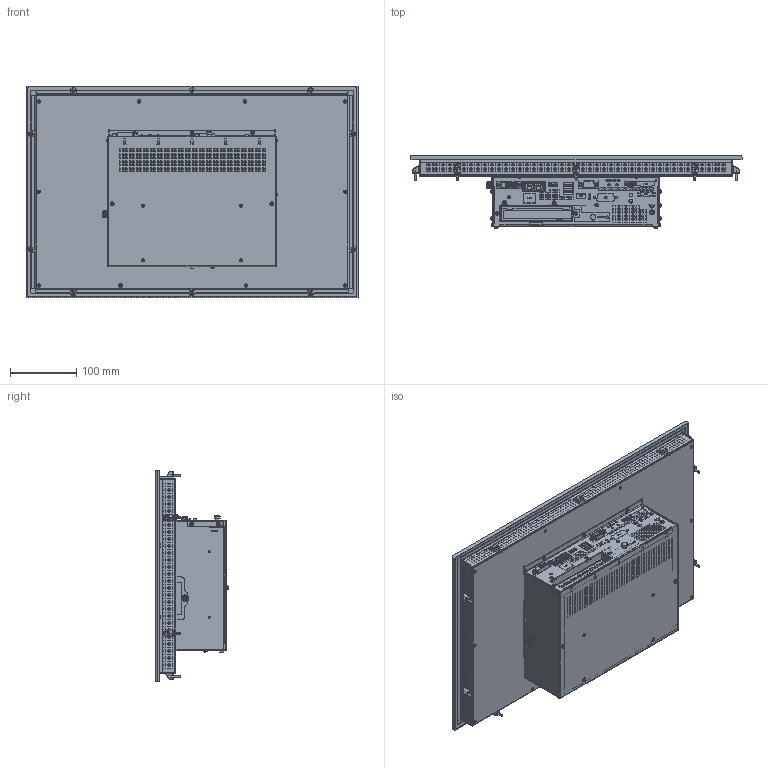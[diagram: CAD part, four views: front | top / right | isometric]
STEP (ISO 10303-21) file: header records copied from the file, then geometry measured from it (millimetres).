
FILE_DESCRIPTION((''),'2;1');
FILE_NAME('C6E22-Panel_185W_CAP_S1','2017-03-07T',('manpal'),(''),'PRO/ENGINEER BY PARAMETRIC TECHNOLOGY CORPORATION, 2013410','PRO/ENGINEER BY PARAMETRIC TECHNOLOGY CORPORATION, 2013410','');
FILE_SCHEMA(('AUTOMOTIVE_DESIGN { 1 0 10303 214 1 1 1 1 }'));
Products named in the file (2): C6E22-Panel_185W_CAP_S1_
Assembly tree (1 placements, depth 2):
  C6E22-Panel_185W_CAP_S1_
    C6E22-Panel_185W_CAP_S1_
Bounding box: 503 x 110.09 x 320.5 mm (x, y, z)
Surface area: 1015879.3 mm2 (no closed solid volume)
Topology: 0 solids, 362 shells, 5570 faces, 25190 edges, 19756 vertices
Faces by surface type: plane 4274, cylinder 774, cone 282, bspline 168, sphere 42, torus 28, extrusion 2
Entity records: 284198 total; most frequent: CARTESIAN_POINT 66548, DIRECTION 37882, ORIENTED_EDGE 35815, EDGE_CURVE 25146, VECTOR 20670, LINE 20668, VERTEX_POINT 19756, AXIS2_PLACEMENT_3D 8606
